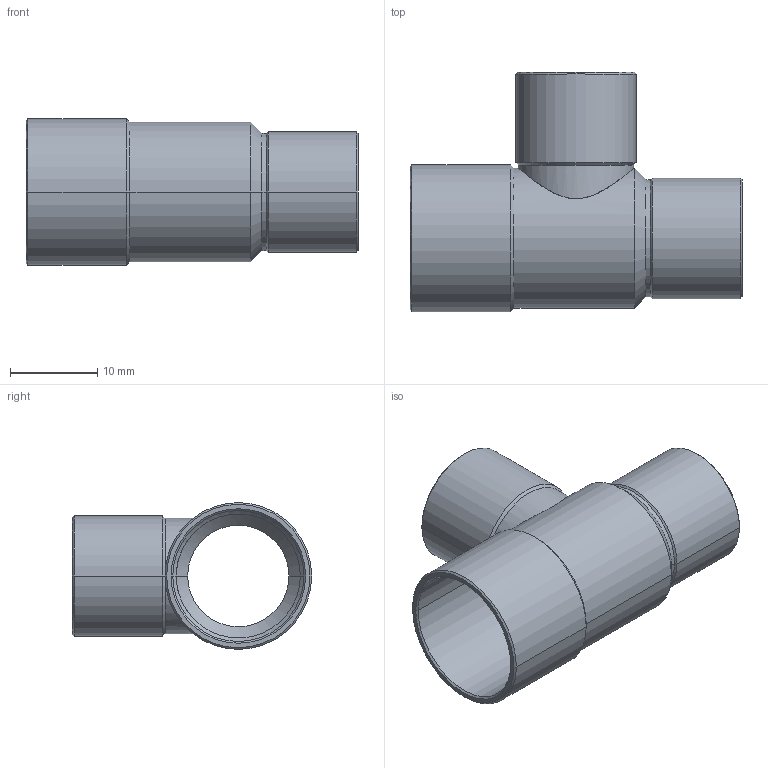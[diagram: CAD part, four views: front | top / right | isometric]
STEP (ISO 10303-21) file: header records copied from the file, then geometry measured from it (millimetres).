
FILE_DESCRIPTION((''),'2;1');
FILE_NAME('P:\Bouwmaten\z-maattekeningen 3D\5000\5130\5130151212.stp','2005-10-26T11:52:46',('Kris'),(''),'Autodesk Inventor 8','Autodesk Inventor 8','');
FILE_SCHEMA(('AUTOMOTIVE_DESIGN { 1 0 10303 214 1 1 1 1 }'));
Length unit declared in the file: millimetre
Products named in the file (1): 5130151212
Bounding box: 38 x 27.4 x 16.8 mm (x, y, z)
Volume: 1932.3 mm3; surface area: 4428.6 mm2
Topology: 1 solids, 1 shells, 59 faces, 129 edges, 71 vertices
Faces by surface type: cone 28, cylinder 26, plane 3, bspline 2
Entity records: 2280 total; most frequent: CARTESIAN_POINT 962, DIRECTION 287, ORIENTED_EDGE 258, EDGE_CURVE 129, AXIS2_PLACEMENT_3D 117, VERTEX_POINT 71, EDGE_LOOP 62, CIRCLE 59
